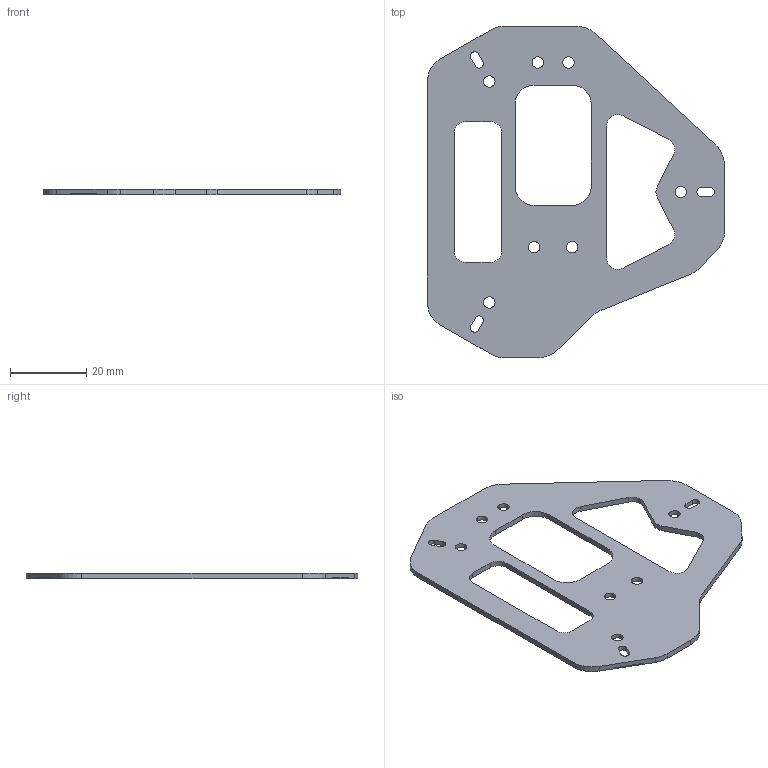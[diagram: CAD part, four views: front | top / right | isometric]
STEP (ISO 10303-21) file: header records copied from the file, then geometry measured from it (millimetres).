
FILE_DESCRIPTION (( 'STEP AP203' ), '1' );
FILE_NAME ('PEN-L.STEP', '2025-01-21T11:45:01', ( '' ), ( '' ), 'SwSTEP 2.0', 'SolidWorks 2024', '' );
FILE_SCHEMA (( 'CONFIG_CONTROL_DESIGN' ));
Length unit declared in the file: millimetre
Products named in the file (1): PEN-L
Bounding box: 78 x 87 x 1.5 mm (x, y, z)
Volume: 5231.2 mm3; surface area: 8132.6 mm2
Topology: 1 solids, 1 shells, 109 faces, 303 edges, 202 vertices
Faces by surface type: cylinder 60, plane 49
Entity records: 3666 total; most frequent: DIRECTION 643, CARTESIAN_POINT 615, ORIENTED_EDGE 606, EDGE_CURVE 303, AXIS2_PLACEMENT_3D 230, VERTEX_POINT 202, VECTOR 183, LINE 183
